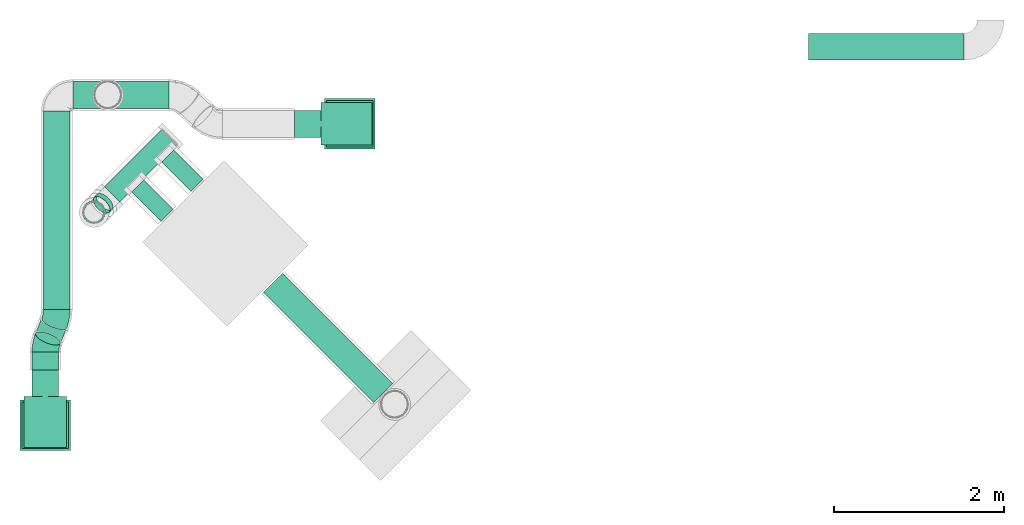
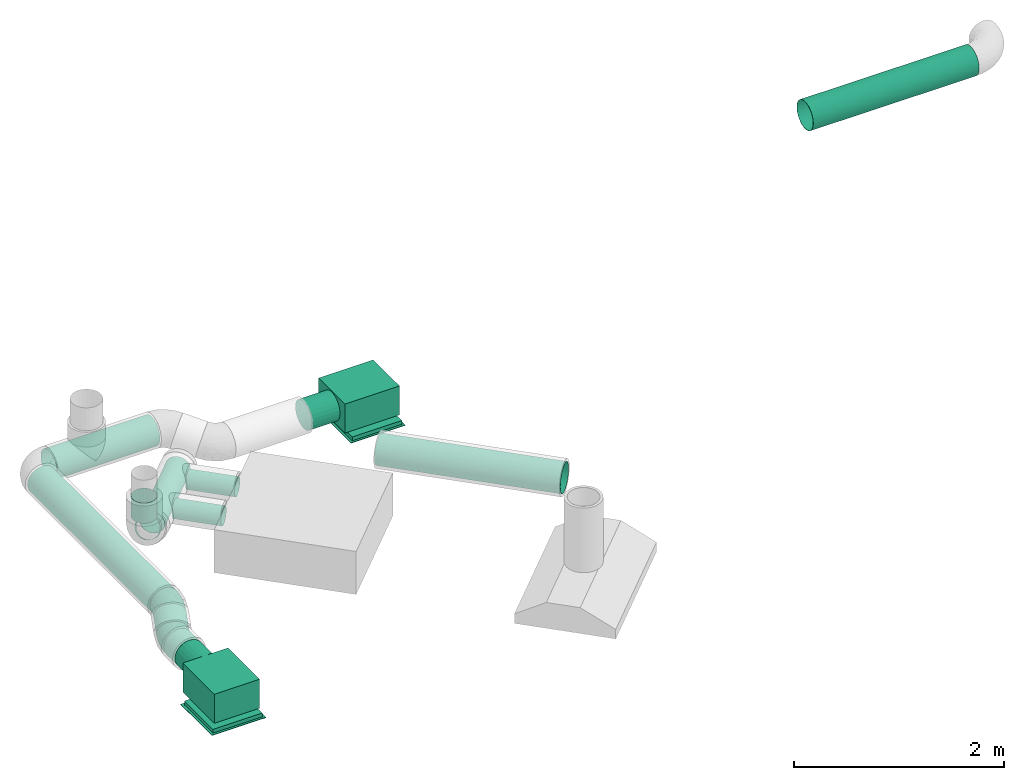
# One storey, part 6 of 12: 11 flow segments, 2 flow fittings, 2 flow terminals.
"""IFC2X3 building model written with IfcOpenShell, lengths in millimetres."""

from ifc_helpers import new_model, entity, si_unit, converted_unit, derived_unit, direction, frame, origin_with_axes, origin_2d_with_axis, place, context, subcontext, project, spatial, hollow_circle, extrude, open_shell, surface_model, source, transform, mapped, type_object, element, save


model = new_model("IFC2X3")

# Units and contexts
model_context = context("Model", 3, precision=0.01, world=frame((0.0, 4.29681676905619e-09, 0.0)), true_north=direction((4.01073788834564e-13, 1.0)))
plan_context = context("Plan", 3, precision=0.01, world=frame((0.0, 4.29681676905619e-09, 0.0)), true_north=direction((4.01073788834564e-13, 1.0)))
body_context = subcontext(model_context, "Body", "Model", "MODEL_VIEW")
ifc_project = project(units=[converted_unit("PLANEANGLEUNIT", "DEGREE", entity("IfcPositiveLengthMeasure", 0.0174532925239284), si_unit("PLANEANGLEUNIT", "RADIAN"), dimensions=[0, 0, 0, 0, 0, 0, 0]), si_unit("AREAUNIT", "SQUARE_METRE"), si_unit("LENGTHUNIT", "METRE", prefix="MILLI"), si_unit("MASSUNIT", "GRAM", prefix="KILO"), si_unit("POWERUNIT", "WATT"), si_unit("PRESSUREUNIT", "PASCAL", prefix="KILO"), si_unit("FORCEUNIT", "NEWTON", prefix="KILO"), si_unit("ELECTRICVOLTAGEUNIT", "VOLT"), si_unit("ELECTRICCURRENTUNIT", "AMPERE"), si_unit("THERMODYNAMICTEMPERATUREUNIT", "DEGREE_CELSIUS"), si_unit("TIMEUNIT", "SECOND"), si_unit("VOLUMEUNIT", "CUBIC_METRE"), derived_unit("LINEARVELOCITYUNIT", [(si_unit("LENGTHUNIT", "METRE"), 1), (si_unit("TIMEUNIT", "SECOND"), -1)]), derived_unit("VOLUMETRICFLOWRATEUNIT", [(si_unit("VOLUMEUNIT", "CUBIC_METRE"), 1), (si_unit("TIMEUNIT", "SECOND"), -1)]), derived_unit("THERMALTRANSMITTANCEUNIT", [(si_unit("POWERUNIT", "WATT"), 1), (si_unit("THERMODYNAMICTEMPERATUREUNIT", "KELVIN"), -1), (si_unit("AREAUNIT", "SQUARE_METRE"), -1)]), derived_unit("SOUNDPRESSUREUNIT", [(si_unit("PRESSUREUNIT", "PASCAL"), 1)])], contexts=[model_context, plan_context])

# Site, building, storey
site_placement = place(None, frame((0.0, -4.29681676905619e-09, 0.0), z_axis=(0.0, 0.0, 1.0), x_axis=(1.0, 0.0, 0.0)))
site = spatial("IfcSite", under=ifc_project, at=site_placement, CompositionType="ELEMENT")
building_placement = place(site_placement, frame((0.0, 4.29681676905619e-09, 0.0), z_axis=(0.0, 0.0, 1.0), x_axis=(1.0, 0.0, 0.0)))
building = spatial("IfcBuilding", under=site, at=building_placement, Name="mc-building", CompositionType="ELEMENT")
storey_placement = place(building_placement, frame((0.0, 0.0, 204000.0), z_axis=(0.0, 0.0, 1.0), x_axis=(1.0, 0.0, 0.0)))
storey = spatial("IfcBuildingStorey", under=building, at=storey_placement, Name="Nivå D", CompositionType="ELEMENT", Elevation=204000.0)

# Flow fittings
duct_fitting_type = type_object("IfcDuctFittingType", Name="magicirc_elbow_full_radius_001", PredefinedType="BEND")
shared_shape_1 = source(origin_with_axes(), body_context, "Body", "SurfaceModel", [
    surface_model("IfcShellBasedSurfaceModel", [(-84.404, 78.75, -136.39901), (-84.404, 40.764, -152.13332), (-84.404, 0.0, -157.5), (-84.404, 136.39901, -78.75), (-84.404, -40.764, -152.13332), (-84.404, 111.36932, -111.36932), (-84.404, -157.5, 0.0), (-84.404, -152.13332, 40.764), (-84.404, -111.36932, -111.36932), (-84.404, -152.13332, -40.764), (-84.404, -78.75, -136.39901), (-84.404, -136.39901, -78.75), (-84.404, 152.13332, -40.764), (-84.404, 157.5, 0.0), (-84.404, 152.13332, 40.764), (-84.404, 136.39901, 78.75), (-84.404, 111.36932, 111.36932), (-84.404, 78.75, 136.39901), (-84.404, 40.764, 152.13332), (-84.404, -111.36932, 111.36932), (-84.404, -78.75, 136.39901), (-84.404, -136.39901, 78.75), (-84.404, 0.0, 157.5), (-84.404, -40.764, 152.13332), (73.09601, 42.202, -157.5), (52.71401, 77.50465, -152.13332), (33.721, 110.4015, -136.39901), (4.8965, 160.32701, -78.75), (17.41135, 138.65066, -111.36932), (112.47101, -25.9975, 136.39901), (151.846, -94.197, 0.0), (93.47801, 6.89934, -152.13332), (128.78067, -54.24666, -111.36932), (112.47101, -25.9975, -136.39901), (149.16266, -89.54932, -40.764), (141.29551, -75.923, -78.75), (-2.97065, 173.95332, -40.764), (-5.654, 178.601, 0.0), (17.41135, 138.65066, 111.36932), (-2.97065, 173.95332, 40.764), (4.8965, 160.32701, 78.75), (149.16266, -89.54932, 40.764), (128.78067, -54.24666, 111.36932), (141.29551, -75.923, 78.75), (73.09601, 42.202, 157.5), (93.47801, 6.89934, 152.13332), (89.37925, -92.15066, 92.20703), (-22.73037, -153.45769, 0.0), (-40.59784, -152.51267, 30.28688), (-31.32937, -124.49444, 92.20703), (30.98227, -115.62747, 87.70865), (-20.41785, -95.24437, 121.51269), (-16.0084, -142.62772, 54.66107), (-38.8485, -61.19939, 143.93386), (14.79364, -55.21063, 141.93458), (-28.53977, -20.96656, 155.40896), (-6.27623, 23.42321, 156.95112), (-49.89245, 19.30513, 156.54722), (85.17753, -115.51503, 54.66106), (-37.54999, 60.16585, 147.24833), (4.64344, -147.01213, 24.92468), (-26.40679, 98.55149, 128.60998), (64.24348, -33.57598, 143.93386), (35.19944, -3.8877, 155.40896), (-43.46124, 126.56253, 99.40695), (-40.03698, 149.42004, 64.74038), (-38.5862, 160.63669, 33.11008), (21.76317, -81.22128, 125.47313), (65.30455, -72.27512, 121.51269), (35.57959, -132.78489, 52.24872), (25.10961, 48.25387, 155.22924), (52.71401, 77.50465, 152.13332), (8.22482, 73.66369, 147.0178), (101.8984, -116.27706, 29.05826), (33.721, 110.4015, 136.39901), (64.32541, -131.11503, 26.50225), (-43.64, 162.86668, 0.0), (37.888, -141.39995, 0.0), (96.41393, -121.53308, 0.0), (85.17753, -115.51503, -54.66107), (65.30456, -72.27512, -121.51269), (-45.8725, 29.23427, -155.22926), (-43.95476, 59.68221, -147.0178), (-28.53977, -20.96657, -155.40896), (-25.64273, 131.33699, -99.40695), (21.76318, -81.22129, -125.47312), (30.98229, -115.62747, -87.70864), (-20.41785, -95.24438, -121.51269), (-40.03698, 149.42004, -64.74038), (35.19945, -3.8877, -155.40896), (111.41509, -111.78093, -30.28689), (69.48472, -129.63796, -24.92468), (2.4363, 70.88014, -147.24833), (-46.90172, 158.40855, -33.11008), (-31.32937, -124.49444, -92.20703), (-6.27623, 23.4232, -156.95112), (-30.10807, -151.64808, -29.05826), (89.37925, -92.15067, -92.20703), (35.5796, -132.78488, -52.24872), (9.85007, -145.71165, -26.50225), (-16.00839, -142.62771, -54.66107), (33.55556, 41.66495, -156.54722), (-38.8485, -61.19939, -143.93386), (14.79365, -55.21064, -141.93457), (-26.4068, 98.55149, -128.60998), (64.24348, -33.57598, -143.93386)], [open_shell([[[0, 1, 2]], [[3, 0, 2]], [[4, 3, 2]], [[5, 0, 3]], [[3, 6, 7]], [[8, 9, 10]], [[4, 10, 6]], [[11, 9, 8]], [[6, 10, 9]], [[6, 3, 4]], [[7, 12, 3]], [[13, 7, 14]], [[15, 14, 16]], [[17, 16, 7]], [[7, 16, 14]], [[7, 18, 17]], [[19, 20, 21]], [[7, 21, 22]], [[23, 22, 20]], [[21, 20, 22]], [[22, 18, 7]], [[12, 7, 13]], [[24, 25, 26]], [[27, 26, 28]], [[29, 30, 27]], [[31, 32, 33]], [[32, 34, 35]], [[34, 32, 30]], [[27, 36, 37]], [[38, 39, 40]], [[41, 42, 43]], [[29, 44, 45]], [[42, 46, 43]], [[6, 47, 48]], [[49, 50, 51]], [[7, 52, 21]], [[53, 51, 54]], [[19, 49, 51]], [[22, 23, 55]], [[23, 20, 53]], [[55, 56, 57]], [[20, 19, 51]], [[46, 50, 58]], [[17, 18, 59]], [[52, 48, 60]], [[16, 17, 61]], [[54, 62, 63]], [[15, 64, 65]], [[18, 22, 57]], [[19, 21, 49]], [[54, 63, 55]], [[65, 66, 14]], [[67, 50, 68]], [[13, 14, 66]], [[14, 15, 65]], [[15, 16, 64]], [[61, 17, 59]], [[56, 55, 63]], [[60, 69, 52]], [[53, 55, 23]], [[42, 29, 68]], [[7, 48, 52]], [[41, 43, 58]], [[44, 70, 63]], [[71, 72, 70]], [[41, 73, 30]], [[29, 45, 62]], [[62, 68, 29]], [[74, 38, 61]], [[42, 68, 46]], [[73, 58, 75]], [[50, 52, 69]], [[21, 52, 49]], [[38, 40, 64]], [[57, 59, 18]], [[65, 39, 66]], [[56, 70, 72]], [[76, 66, 37]], [[51, 67, 54]], [[61, 59, 72]], [[50, 46, 68]], [[74, 72, 71]], [[58, 43, 46]], [[40, 65, 64]], [[44, 63, 45]], [[50, 49, 52]], [[16, 61, 64]], [[58, 69, 75]], [[38, 64, 61]], [[40, 39, 65]], [[61, 72, 74]], [[56, 72, 59]], [[51, 53, 20]], [[55, 53, 54]], [[63, 62, 45]], [[68, 62, 54]], [[63, 70, 56]], [[44, 71, 70]], [[55, 57, 22]], [[59, 57, 56]], [[6, 48, 7]], [[60, 48, 47]], [[47, 77, 60]], [[75, 69, 60]], [[75, 60, 77]], [[50, 69, 58]], [[77, 78, 75]], [[73, 75, 78]], [[30, 73, 78]], [[41, 58, 73]], [[50, 67, 51]], [[68, 54, 67]], [[37, 66, 39]], [[66, 76, 13]], [[34, 79, 35]], [[33, 32, 80]], [[81, 1, 82]], [[2, 83, 4]], [[84, 5, 3]], [[85, 86, 87]], [[88, 84, 3]], [[24, 31, 89]], [[0, 82, 1]], [[79, 90, 91]], [[26, 25, 92]], [[93, 88, 12]], [[8, 87, 94]], [[95, 89, 83]], [[6, 9, 96]], [[86, 97, 79]], [[98, 99, 100]], [[27, 28, 84]], [[8, 10, 87]], [[96, 100, 99]], [[101, 92, 25]], [[100, 9, 11]], [[102, 10, 4]], [[8, 94, 11]], [[94, 86, 100]], [[103, 83, 89]], [[13, 76, 93]], [[5, 84, 104]], [[37, 36, 93]], [[35, 79, 97]], [[32, 35, 97]], [[88, 3, 12]], [[0, 5, 104]], [[92, 82, 104]], [[26, 92, 104]], [[102, 87, 10]], [[81, 83, 2]], [[84, 88, 27]], [[34, 90, 79]], [[101, 25, 24]], [[105, 31, 33]], [[28, 26, 104]], [[32, 97, 80]], [[103, 105, 80]], [[86, 79, 98]], [[95, 101, 89]], [[97, 86, 80]], [[103, 102, 83]], [[78, 90, 30]], [[95, 81, 82]], [[36, 27, 88]], [[98, 79, 91]], [[80, 85, 103]], [[105, 89, 31]], [[100, 11, 94]], [[36, 88, 93]], [[28, 104, 84]], [[86, 94, 87]], [[104, 82, 0]], [[95, 82, 92]], [[83, 102, 4]], [[87, 102, 103]], [[80, 105, 33]], [[89, 105, 103]], [[83, 81, 95]], [[2, 1, 81]], [[89, 101, 24]], [[92, 101, 95]], [[30, 90, 34]], [[91, 90, 78]], [[78, 77, 91]], [[99, 98, 91]], [[99, 91, 77]], [[86, 98, 100]], [[77, 47, 99]], [[96, 99, 47]], [[6, 96, 47]], [[9, 100, 96]], [[86, 85, 80]], [[87, 103, 85]], [[13, 93, 12]], [[93, 76, 37]], [[31, 24, 26]], [[31, 26, 27]], [[32, 31, 30]], [[31, 27, 30]], [[27, 39, 38]], [[38, 74, 71]], [[29, 27, 38]], [[71, 44, 38]], [[41, 30, 42]], [[30, 29, 42]], [[38, 44, 29]], [[39, 27, 37]]])]),
])
for number, where, z_axis, x_axis, name in (
    (1, (596732.0, 401779.43538, 2800.0), (-0.697236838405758, 8.48878586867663e-09, 0.716840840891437), (0.358420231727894, 0.866025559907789, 0.348618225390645), "magicirc_elbow_full_radius_001"),
    (2, (596596.8026, 401452.76772, 2668.5), (0.697236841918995, 0.0, -0.71684083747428), (0.0, 1.0, 0.0), "magicirc_elbow_full_radius_001"),
):
    element("IfcFlowFitting", number, at=place(storey_placement, frame(where, z_axis=z_axis, x_axis=x_axis)), inside=storey, type_object=duct_fitting_type, Name=name, context=body_context, shape_type="MappedRepresentation", body=[
        mapped(shared_shape_1, transform((0.0, 0.0, 0.0), scale=1.0)),
    ])

# Flow segments
duct_segment_type_1 = type_object("IfcDuctSegmentType", Name="Sirkulær kanal", PredefinedType="RIGIDSEGMENT")
shared_shape_2 = source(origin_with_axes(), body_context, "Body", "SweptSolid", [
    extrude(hollow_circle(Radius=157.5, WallThickness=2.0, at=origin_2d_with_axis()), frame((0.0, 0.0, 0.0), z_axis=(1.0, 0.0, 0.0), x_axis=(0.0, 1.0, 0.0)), (0.0, 0.0, 1.0), 2333.2),
])
flow_segment_1_placement = place(storey_placement, frame((596732.0, 404197.04214, 2800.0), z_axis=(0.661280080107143, 0.0, 0.75013909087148), x_axis=(0.0, -1.0, 0.0)))
element("IfcFlowSegment", 3, at=flow_segment_1_placement, inside=storey, type_object=duct_segment_type_1, Name="Sirkulær kanal", context=body_context, shape_type="MappedRepresentation", body=[
    mapped(shared_shape_2, transform((0.0, 0.0, 0.0), scale=1.0)),
])
duct_segment_type_2 = type_object("IfcDuctSegmentType", Name="KK001T - Spiro kanaler, Forsinket stål", PredefinedType="RIGIDSEGMENT")
shared_shape_3 = source(origin_with_axes(), body_context, "Body", "SweptSolid", [
    extrude(hollow_circle(Radius=125.0, WallThickness=2.0, at=origin_2d_with_axis()), frame((0.0, 0.0, 0.0), z_axis=(1.0, 0.0, 0.0), x_axis=(0.0, 1.0, 0.0)), (0.0, 0.0, 1.0), 235.7),
])
flow_segment_2_placement = place(storey_placement, frame((597169.2875, 403005.94192, 3185.09680999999), z_axis=(0.0, 1.0, 0.0), x_axis=(0.0, 0.0, -1.0)))
element("IfcFlowSegment", 4, at=flow_segment_2_placement, inside=storey, type_object=duct_segment_type_2, Name="KK001T - Spiro kanaler, Forsinket stål", context=body_context, shape_type="MappedRepresentation", body=[
    mapped(shared_shape_3, transform((0.0, 0.0, 0.0), scale=1.0)),
])
shared_shape_4 = source(origin_with_axes(), body_context, "Body", "SweptSolid", [
    extrude(hollow_circle(Radius=157.5, WallThickness=2.0, at=origin_2d_with_axis()), frame((0.0, 0.0, 0.0), z_axis=(1.0, 0.0, 0.0), x_axis=(0.0, 1.0, 0.0)), (0.0, 0.0, 1.0), 213.2),
])
flow_segment_3_placement = place(storey_placement, frame((596596.8026, 401155.13585, 2668.5), z_axis=(0.0, 0.0, 1.0), x_axis=(0.0, 1.0, 0.0)))
element("IfcFlowSegment", 5, at=flow_segment_3_placement, inside=storey, type_object=duct_segment_type_1, Name="Sirkulær kanal", context=body_context, shape_type="MappedRepresentation", body=[
    mapped(shared_shape_4, transform((0.0, 0.0, 0.0), scale=1.0)),
])
shared_shape_5 = source(origin_with_axes(), body_context, "Body", "SweptSolid", [
    extrude(hollow_circle(Radius=157.5, WallThickness=2.0, at=origin_2d_with_axis()), frame((0.0, 0.0, 0.0), z_axis=(1.0, 0.0, 0.0), x_axis=(0.0, 1.0, 0.0)), (0.0, 0.0, 1.0), 1130.0),
])
flow_segment_4_placement = place(storey_placement, frame((596921.0, 404386.04214, 2800.0), z_axis=(0.0, 0.0, 1.0), x_axis=(1.0, 0.0, 0.0)))
element("IfcFlowSegment", 6, at=flow_segment_4_placement, inside=storey, type_object=duct_segment_type_2, Name="KK001T - Spiro kanaler, Forsinket stål", context=body_context, shape_type="MappedRepresentation", body=[
    mapped(shared_shape_5, transform((0.0, 0.0, 0.0), scale=1.0)),
])
shared_shape_6 = source(origin_with_axes(), body_context, "Body", "SweptSolid", [
    extrude(hollow_circle(Radius=100.0, WallThickness=2.0, at=origin_2d_with_axis()), frame((0.0, 0.0, 0.0), z_axis=(1.0, 0.0, 0.0), x_axis=(0.0, 1.0, 0.0)), (0.0, 0.0, 1.0), 483.7),
])
for number, where, z_axis, x_axis in (
    (7, (598025.33976, 402972.88061, 2670.0), (0.0, 0.0, 1.0), (-0.707106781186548, 0.707106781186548, 0.0)),
    (8, (598378.89315, 403326.434, 2670.0), (2.4999999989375e-05, -1.4999999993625e-05, 0.999999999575), (-0.707106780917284, 0.707106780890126, 2.8284271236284e-05)),
):
    element("IfcFlowSegment", number, at=place(storey_placement, frame(where, z_axis=z_axis, x_axis=x_axis)), inside=storey, type_object=duct_segment_type_1, Name="Sirkulær kanal", context=body_context, shape_type="MappedRepresentation", body=[
        mapped(shared_shape_6, transform((0.0, 0.0, 0.0), scale=1.0)),
    ])
shared_shape_7 = source(origin_with_axes(), body_context, "Body", "SweptSolid", [
    extrude(hollow_circle(Radius=125.0, WallThickness=2.0, at=origin_2d_with_axis()), frame((0.0, 0.0, 0.0), z_axis=(1.0, 0.0, 0.0), x_axis=(0.0, 1.0, 0.0)), (0.0, 0.0, 1.0), 947.1),
])
flow_segment_5_placement = place(storey_placement, frame((597382.0848, 403218.79721, 2670.0), z_axis=(0.0, 0.0, 1.0), x_axis=(0.707106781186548, 0.707106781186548, 0.0)))
element("IfcFlowSegment", 9, at=flow_segment_5_placement, inside=storey, type_object=duct_segment_type_2, Name="KK001T - Spiro kanaler, Forsinket stål", context=body_context, shape_type="MappedRepresentation", body=[
    mapped(shared_shape_7, transform((0.0, 0.0, 0.0), scale=1.0)),
])
shared_shape_8 = source(origin_with_axes(), body_context, "Body", "SweptSolid", [
    extrude(hollow_circle(Radius=125.0, WallThickness=2.0, at=origin_2d_with_axis()), frame((0.0, 0.0, 0.0), z_axis=(1.0, 0.0, 0.0), x_axis=(0.0, 1.0, 0.0)), (0.0, 0.0, 1.0), 58.9),
])
flow_segment_6_placement = place(storey_placement, frame((597257.66036, 403094.34576, 2732.92801999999), z_axis=(0.353491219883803, 0.353615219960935, 0.866025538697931), x_axis=(0.612265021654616, 0.612480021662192, -0.499999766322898)))
element("IfcFlowSegment", 10, at=flow_segment_6_placement, inside=storey, type_object=duct_segment_type_2, Name="KK001T - Spiro kanaler, Forsinket stål", context=body_context, shape_type="MappedRepresentation", body=[
    mapped(shared_shape_8, transform((0.0, 0.0, 0.0), scale=1.0)),
])
shared_shape_9 = source(origin_with_axes(), body_context, "Body", "SweptSolid", [
    extrude(hollow_circle(Radius=157.5, WallThickness=2.0, at=origin_2d_with_axis()), frame((0.0, 0.0, 0.0), z_axis=(1.0, 0.0, 0.0), x_axis=(0.0, 1.0, 0.0)), (0.0, 0.0, 1.0), 208.4),
])
flow_segment_7_placement = place(storey_placement, frame((596701.74788, 401706.33938, 2770.57522), z_axis=(-0.133315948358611, -0.32212087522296, 0.937264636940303), x_axis=(-0.358420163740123, -0.866025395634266, -0.348618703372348)))
element("IfcFlowSegment", 11, at=flow_segment_7_placement, inside=storey, type_object=duct_segment_type_1, Name="Sirkulær kanal", context=body_context, shape_type="MappedRepresentation", body=[
    mapped(shared_shape_9, transform((0.0, 0.0, 0.0), scale=1.0)),
])
shared_shape_10 = source(origin_with_axes(), body_context, "Body", "SweptSolid", [
    extrude(hollow_circle(Radius=157.5, WallThickness=2.0, at=origin_2d_with_axis()), frame((0.0, 0.0, 0.0), z_axis=(1.0, 0.0, 0.0), x_axis=(0.0, 1.0, 0.0)), (0.0, 0.0, 1.0), 1831.8),
])
flow_segment_8_placement = place(storey_placement, frame((600567.36137, 400884.53709, 3490.0), z_axis=(0.0, 0.0, 1.0), x_axis=(-0.707106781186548, 0.707106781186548, 0.0)))
element("IfcFlowSegment", 12, at=flow_segment_8_placement, inside=storey, type_object=duct_segment_type_2, Name="KK001T - Spiro kanaler, Forsinket stål", context=body_context, shape_type="MappedRepresentation", body=[
    mapped(shared_shape_10, transform((0.0, 0.0, 0.0), scale=1.0)),
])
shared_shape_11 = source(origin_with_axes(), body_context, "Body", "SweptSolid", [
    extrude(hollow_circle(Radius=157.5, WallThickness=2.0, at=origin_2d_with_axis()), frame((0.0, 0.0, 0.0), z_axis=(1.0, 0.0, 0.0), x_axis=(0.0, 1.0, 0.0)), (0.0, 0.0, 1.0), 1825.0),
])
flow_segment_9_placement = place(storey_placement, frame((607386.87533, 404951.79391, 3490.0), z_axis=(0.0, 0.0, 1.0), x_axis=(-1.0, 0.0, 0.0)))
element("IfcFlowSegment", 13, at=flow_segment_9_placement, inside=storey, type_object=duct_segment_type_2, Name="KK001T - Spiro kanaler, Forsinket stål", context=body_context, shape_type="MappedRepresentation", body=[
    mapped(shared_shape_11, transform((0.0, 0.0, 0.0), scale=1.0)),
])

# Flow terminals
air_terminal_type = type_object("IfcAirTerminalType", Name="Orion-LOV-TA-315+Luna-315-315", PredefinedType="NOTDEFINED")
shared_shape_12 = source(origin_with_axes(), body_context, "Body", "SurfaceModel", [
    surface_model("IfcShellBasedSurfaceModel", [(-272.49999, 272.49999, 44.0), (-272.49999, -272.49999, 44.0), (272.49999, -272.49999, 44.0), (272.49999, 272.49999, 44.0), (272.49999, 272.49999, 0.0), (272.49999, -272.49999, 0.0), (-272.49999, -272.49999, 0.0), (-272.49999, 272.49999, 0.0), (-297.49999, 297.49999, 0.0), (-297.49999, -297.49999, 0.0), (297.49999, -297.49999, 0.0), (297.49999, 297.49999, 0.0), (297.49999, 297.49999, -6.0), (297.49999, -297.49999, -6.0), (-297.49999, -297.49999, -6.0), (-297.49999, 297.49999, -6.0), (79.25, -137.26502, 44.0), (137.26502, -79.25, 44.0), (112.07643, -112.07643, 44.0), (137.26502, 79.25, 44.0), (79.25, 137.26502, 44.0), (112.07643, 112.07643, 44.0), (-153.09925, 41.02282, 44.0), (-153.09925, -41.02282, 44.0), (-158.49999, 0.0, 44.0), (-137.26502, 79.25, 44.0), (-650.0, 40.764, 420.6333), (-650.0, -40.764, 420.6333), (-650.0, 0.0, 426.00001), (-650.0, 111.36932, 379.86933), (-650.0, 78.75, 404.89901), (-650.0, -111.36932, 379.86933), (-650.0, 136.39901, 347.24999), (-650.0, 152.13332, 309.26401), (-650.0, -78.75, 404.89901), (-650.0, -136.39901, 347.24999), (-650.0, -157.5, 268.5), (-650.0, -152.13332, 309.26401), (-650.0, 157.5, 268.5), (-650.0, 40.764, 116.36668), (-650.0, 152.13332, 227.73601), (-650.0, 136.39901, 189.74999), (-650.0, 111.36932, 157.13069), (-650.0, 78.75, 132.101), (-650.0, -78.75, 132.101), (-650.0, -152.13332, 227.73601), (-650.0, -111.36932, 157.13069), (-650.0, -136.39901, 189.74999), (-650.0, 0.0, 111.0), (-650.0, -40.764, 116.36668), (-340.0, 40.764, 116.36668), (-340.0, 78.75, 132.101), (-340.0, 111.36932, 157.13069), (-340.0, 152.13332, 227.73601), (-340.0, 157.5, 268.5), (-340.0, 136.39901, 189.74999), (-340.0, -152.13332, 227.73601), (-340.0, 0.0, 111.0), (-340.0, -78.75, 132.101), (-340.0, -40.764, 116.36668), (-340.0, -111.36932, 157.13069), (-340.0, -136.39901, 189.74999), (-340.0, 136.39901, 347.24999), (-340.0, -111.36932, 379.86933), (-340.0, 78.75, 404.89901), (-340.0, 111.36932, 379.86933), (-340.0, 40.764, 420.6333), (-340.0, -40.764, 420.6333), (-340.0, 0.0, 426.00001), (-340.0, -157.5, 268.5), (-340.0, -136.39901, 347.24999), (-340.0, -152.13332, 309.26401), (-340.0, -78.75, 404.89901), (-340.0, 152.13332, 309.26401), (259.99999, -250.0, 437.0), (259.99999, 250.0, 437.0), (-340.0, 250.0, 437.0), (-340.0, -250.0, 437.0), (-340.0, -250.0, 100.0), (-340.0, 250.0, 100.0), (259.99999, 250.0, 100.0), (259.99999, -250.0, 100.0), (-153.09925, -41.02282, 100.0), (-137.26502, -79.25, 100.0), (-112.07643, -112.07643, 100.0), (0.0, -158.49999, 100.0), (-41.02282, -153.09925, 100.0), (-79.25, -137.26502, 100.0), (-112.07643, 112.07643, 100.0), (-153.09925, 41.02282, 100.0), (-158.49999, 0.0, 100.0), (-137.26502, 79.25, 100.0), (-79.25, 137.26502, 100.0), (0.0, 158.49999, 100.0), (-41.02282, 153.09925, 100.0), (79.25, -137.26502, 100.0), (137.26502, -79.25, 100.0), (112.07643, -112.07643, 100.0), (153.09925, -41.02282, 100.0), (158.49999, 0.0, 100.0), (41.02282, 153.09925, 100.0), (153.09925, 41.02282, 100.0), (79.25, 137.26502, 100.0), (137.26502, 79.25, 100.0), (112.07643, 112.07643, 100.0), (41.02282, -153.09925, 100.0), (158.49999, 0.0, 44.0), (153.09925, -41.02282, 44.0), (153.09925, 41.02282, 44.0), (41.02282, -153.09925, 44.0), (0.0, 158.49999, 44.0), (41.02282, 153.09925, 44.0), (0.0, -158.49999, 44.0), (-41.02282, -153.09925, 44.0), (-79.25, -137.26502, 44.0), (-112.07643, -112.07643, 44.0), (-137.26502, -79.25, 44.0), (-112.07643, 112.07643, 44.0), (-79.25, 137.26502, 44.0), (-41.02282, 153.09925, 44.0)], [open_shell([[[0, 1, 2]], [[2, 3, 0]], [[4, 5, 6]], [[6, 7, 4]], [[8, 9, 10]], [[10, 11, 8]], [[12, 13, 14]], [[14, 15, 12]], [[8, 11, 12]], [[12, 15, 8]], [[9, 8, 15]], [[15, 14, 9]], [[10, 9, 14]], [[14, 13, 10]], [[11, 10, 13]], [[13, 12, 11]], [[16, 17, 18]], [[19, 20, 21]], [[22, 23, 24]], [[23, 22, 25]], [[0, 3, 4]], [[4, 7, 0]], [[1, 0, 7]], [[7, 6, 1]], [[2, 1, 6]], [[6, 5, 2]], [[3, 2, 5]], [[5, 4, 3]], [[26, 27, 28]], [[29, 26, 30]], [[31, 29, 32]], [[29, 31, 26]], [[33, 31, 32]], [[27, 31, 34]], [[27, 26, 31]], [[35, 36, 37]], [[36, 35, 31]], [[33, 36, 31]], [[33, 38, 36]], [[39, 38, 40]], [[39, 40, 41]], [[42, 43, 39]], [[42, 39, 41]], [[38, 39, 44]], [[45, 46, 47]], [[46, 45, 44]], [[44, 48, 49]], [[44, 45, 38]], [[39, 48, 44]], [[38, 45, 36]], [[50, 51, 52]], [[50, 52, 53]], [[53, 54, 50]], [[53, 52, 55]], [[50, 54, 56]], [[57, 58, 59]], [[57, 50, 58]], [[60, 56, 61]], [[56, 60, 58]], [[50, 56, 58]], [[54, 62, 56]], [[63, 56, 62]], [[64, 62, 65]], [[63, 62, 66]], [[66, 62, 64]], [[67, 66, 68]], [[69, 70, 71]], [[70, 69, 63]], [[63, 67, 72]], [[69, 56, 63]], [[66, 67, 63]], [[54, 73, 62]], [[62, 32, 29]], [[64, 30, 26]], [[29, 30, 65]], [[66, 26, 28]], [[38, 73, 54]], [[73, 38, 33]], [[73, 33, 62]], [[33, 32, 62]], [[29, 65, 62]], [[64, 65, 30]], [[26, 66, 64]], [[28, 68, 66]], [[67, 27, 34]], [[31, 72, 34]], [[70, 35, 37]], [[31, 35, 63]], [[71, 37, 36]], [[27, 67, 68]], [[34, 72, 67]], [[31, 63, 72]], [[35, 70, 63]], [[71, 70, 37]], [[36, 69, 71]], [[27, 68, 28]], [[56, 45, 47]], [[46, 61, 47]], [[58, 44, 49]], [[46, 44, 60]], [[59, 49, 48]], [[45, 69, 36]], [[45, 56, 69]], [[47, 61, 56]], [[46, 60, 61]], [[58, 60, 44]], [[49, 59, 58]], [[48, 57, 59]], [[50, 39, 43]], [[42, 51, 43]], [[55, 41, 40]], [[42, 41, 52]], [[53, 40, 38]], [[39, 50, 57]], [[43, 51, 50]], [[42, 52, 51]], [[41, 55, 52]], [[53, 55, 40]], [[38, 54, 53]], [[39, 57, 48]], [[74, 75, 76]], [[76, 77, 74]], [[78, 79, 80]], [[80, 81, 78]], [[76, 75, 80]], [[80, 79, 76]], [[77, 76, 79]], [[79, 78, 77]], [[74, 77, 78]], [[78, 81, 74]], [[75, 74, 81]], [[81, 80, 75]], [[82, 83, 84]], [[82, 84, 85]], [[86, 85, 84]], [[86, 84, 87]], [[82, 85, 88]], [[82, 89, 90]], [[82, 91, 89]], [[92, 93, 94]], [[91, 82, 88]], [[92, 88, 93]], [[88, 85, 95]], [[88, 95, 96]], [[96, 95, 97]], [[96, 98, 99]], [[96, 93, 88]], [[99, 93, 96]], [[100, 101, 102]], [[101, 100, 93]], [[102, 103, 104]], [[103, 102, 101]], [[93, 99, 101]], [[95, 85, 105]], [[106, 107, 17]], [[108, 106, 17]], [[16, 109, 17]], [[110, 17, 109]], [[20, 19, 108]], [[17, 20, 108]], [[17, 111, 20]], [[17, 110, 111]], [[109, 112, 110]], [[23, 112, 113]], [[23, 113, 114]], [[115, 116, 23]], [[115, 23, 114]], [[112, 23, 117]], [[110, 118, 119]], [[117, 118, 110]], [[25, 117, 23]], [[117, 110, 112]], [[23, 82, 24]], [[116, 83, 23]], [[87, 115, 114]], [[116, 115, 84]], [[86, 114, 113]], [[23, 83, 82]], [[82, 90, 24]], [[86, 87, 114]], [[84, 115, 87]], [[84, 83, 116]], [[85, 86, 113]], [[113, 112, 85]], [[109, 105, 112]], [[16, 95, 109]], [[96, 18, 17]], [[16, 18, 97]], [[98, 17, 107]], [[16, 97, 95]], [[95, 105, 109]], [[99, 98, 107]], [[96, 17, 98]], [[96, 97, 18]], [[106, 99, 107]], [[112, 105, 85]], [[108, 101, 106]], [[19, 103, 108]], [[102, 21, 20]], [[19, 21, 104]], [[100, 20, 111]], [[108, 103, 101]], [[101, 99, 106]], [[100, 102, 20]], [[104, 21, 102]], [[104, 103, 19]], [[93, 100, 111]], [[111, 110, 93]], [[119, 94, 110]], [[118, 92, 119]], [[22, 24, 89]], [[88, 118, 117]], [[118, 88, 92]], [[92, 94, 119]], [[91, 25, 89]], [[91, 88, 117]], [[89, 25, 22]], [[24, 90, 89]], [[91, 117, 25]], [[110, 94, 93]]])]),
])
for number, where, z_axis, x_axis in (
    (14, (596596.8026, 400505.13585, 2400.0), (0.0, 0.0, 1.0), (0.0, -1.0, 0.0)),
    (15, (600174.5, 404046.5125, 2400.0), (0.0, 0.0, 1.0), (1.0, 0.0, 0.0)),
):
    element("IfcFlowTerminal", number, at=place(storey_placement, frame(where, z_axis=z_axis, x_axis=x_axis)), inside=storey, type_object=air_terminal_type, Name="Orion-LOV-TA-315+Luna-315-315", context=body_context, shape_type="MappedRepresentation", body=[
        mapped(shared_shape_12, transform((0.0, 0.0, 0.0), scale=1.0)),
    ])

save(model, "model.ifc")
